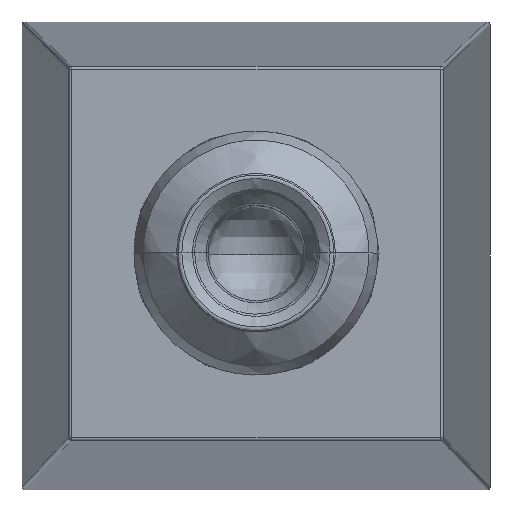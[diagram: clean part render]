
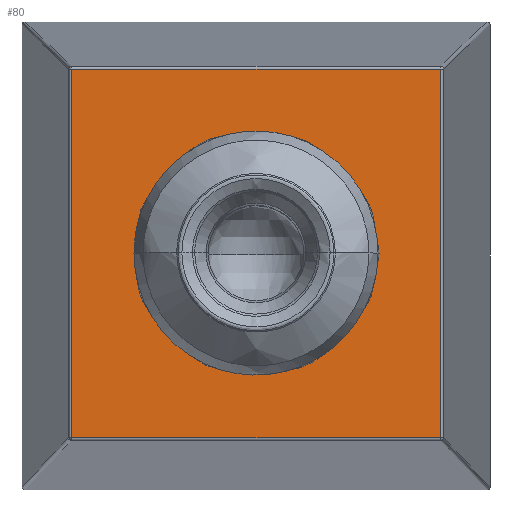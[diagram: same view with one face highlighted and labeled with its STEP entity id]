
A CAD part, top view. The second image highlights one B-rep face of the part: STEP entity #80.
In plain terms, the highlighted planar face has unit normal (0, 0, 1).
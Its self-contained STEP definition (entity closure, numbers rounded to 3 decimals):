
#17=FACE_BOUND($,#262,.T.);
#80=ADVANCED_FACE($,(#170,#17),#935,.T.);
#170=FACE_OUTER_BOUND($,#261,.T.);
#261=EDGE_LOOP($,(#540,#541,#542,#543));
#262=EDGE_LOOP($,(#544,#545));
#540=ORIENTED_EDGE($,*,*,#788,.F.);
#541=ORIENTED_EDGE($,*,*,#789,.F.);
#542=ORIENTED_EDGE($,*,*,#790,.F.);
#543=ORIENTED_EDGE($,*,*,#787,.F.);
#544=ORIENTED_EDGE($,*,*,#785,.T.);
#545=ORIENTED_EDGE($,*,*,#810,.T.);
#785=EDGE_CURVE($,#912,#911,#1186,.T.);
#787=EDGE_CURVE($,#913,#914,#1034,.T.);
#788=EDGE_CURVE($,#915,#913,#1035,.T.);
#789=EDGE_CURVE($,#916,#915,#1036,.T.);
#790=EDGE_CURVE($,#914,#916,#1037,.T.);
#810=EDGE_CURVE($,#911,#912,#1188,.T.);
#911=VERTEX_POINT($,#3299);
#912=VERTEX_POINT($,#3300);
#913=VERTEX_POINT($,#3301);
#914=VERTEX_POINT($,#3302);
#915=VERTEX_POINT($,#3303);
#916=VERTEX_POINT($,#3304);
#935=PLANE($,#1295);
#1034=B_SPLINE_CURVE_WITH_KNOTS($,1,(#2720,#2721),.UNSPECIFIED.,.F.,.F.,
(2,2),(-63.031,0.),.UNSPECIFIED.);
#1035=B_SPLINE_CURVE_WITH_KNOTS($,1,(#2722,#2723),.UNSPECIFIED.,.F.,.F.,
(2,2),(-63.031,0.),.UNSPECIFIED.);
#1036=B_SPLINE_CURVE_WITH_KNOTS($,1,(#2724,#2725),.UNSPECIFIED.,.F.,.F.,
(2,2),(-63.031,0.),.UNSPECIFIED.);
#1037=B_SPLINE_CURVE_WITH_KNOTS($,1,(#2726,#2727),.UNSPECIFIED.,.F.,.F.,
(2,2),(-63.031,0.),.UNSPECIFIED.);
#1186=(
BOUNDED_CURVE()
B_SPLINE_CURVE(2,(#2713,#2714,#2715,#2716,#2717),.UNSPECIFIED.,.F.,.F.)
B_SPLINE_CURVE_WITH_KNOTS((3,2,3),(0.,16.682,33.364),
.UNSPECIFIED.)
CURVE()
GEOMETRIC_REPRESENTATION_ITEM()
RATIONAL_B_SPLINE_CURVE((1.,0.707,1.,0.707,1.))
REPRESENTATION_ITEM($)
);
#1188=(
BOUNDED_CURVE()
B_SPLINE_CURVE(2,(#2769,#2770,#2771,#2772,#2773),.UNSPECIFIED.,.F.,.F.)
B_SPLINE_CURVE_WITH_KNOTS((3,2,3),(0.,16.682,33.364),
.UNSPECIFIED.)
CURVE()
GEOMETRIC_REPRESENTATION_ITEM()
RATIONAL_B_SPLINE_CURVE((1.,0.707,1.,0.707,1.))
REPRESENTATION_ITEM($)
);
#1295=AXIS2_PLACEMENT_3D($,#3105,#1306,$);
#1306=DIRECTION($,(0.,0.,1.));
#2713=CARTESIAN_POINT($,(-10.62,-1.918,250.008));
#2714=CARTESIAN_POINT($,(-10.62,8.702,250.008));
#2715=CARTESIAN_POINT($,(0.,8.702,250.008));
#2716=CARTESIAN_POINT($,(10.62,8.702,250.008));
#2717=CARTESIAN_POINT($,(10.62,-1.918,250.008));
#2720=CARTESIAN_POINT($,(31.516,-33.434,250.008));
#2721=CARTESIAN_POINT($,(-31.516,-33.434,250.008));
#2722=CARTESIAN_POINT($,(31.516,29.597,250.008));
#2723=CARTESIAN_POINT($,(31.516,-33.434,250.008));
#2724=CARTESIAN_POINT($,(-31.516,29.597,250.008));
#2725=CARTESIAN_POINT($,(31.516,29.597,250.008));
#2726=CARTESIAN_POINT($,(-31.516,-33.434,250.008));
#2727=CARTESIAN_POINT($,(-31.516,29.597,250.008));
#2769=CARTESIAN_POINT($,(10.62,-1.918,250.008));
#2770=CARTESIAN_POINT($,(10.62,-12.538,250.008));
#2771=CARTESIAN_POINT($,(0.,-12.538,250.008));
#2772=CARTESIAN_POINT($,(-10.62,-12.538,250.008));
#2773=CARTESIAN_POINT($,(-10.62,-1.918,250.008));
#3105=CARTESIAN_POINT($,(-31.516,29.597,250.008));
#3299=CARTESIAN_POINT($,(10.62,-1.918,250.008));
#3300=CARTESIAN_POINT($,(-10.62,-1.918,250.008));
#3301=CARTESIAN_POINT($,(31.516,-33.434,250.008));
#3302=CARTESIAN_POINT($,(-31.516,-33.434,250.008));
#3303=CARTESIAN_POINT($,(31.516,29.597,250.008));
#3304=CARTESIAN_POINT($,(-31.516,29.597,250.008));
